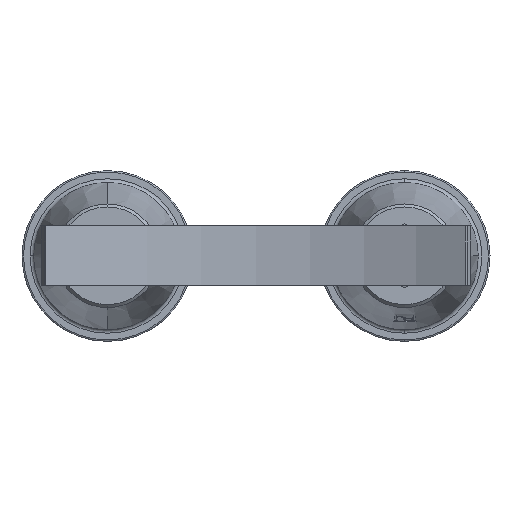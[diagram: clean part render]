
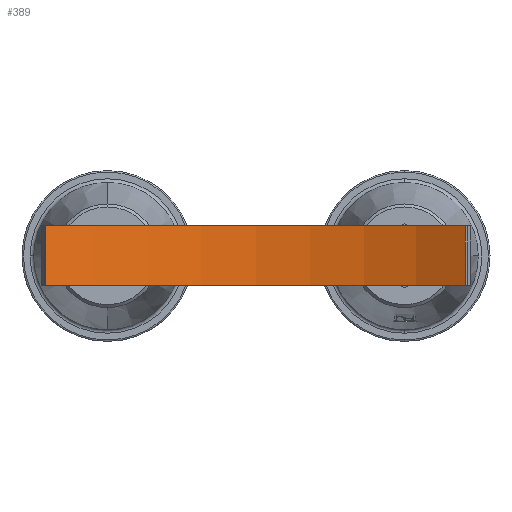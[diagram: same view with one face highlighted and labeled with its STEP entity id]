
A CAD part, top view. The second image highlights one B-rep face of the part: STEP entity #389.
In plain terms, the highlighted cylindrical face has radius 546 mm (diameter 1092 mm), a partial arc.
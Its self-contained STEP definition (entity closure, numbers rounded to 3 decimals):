
#389=ADVANCED_FACE('',(#911),#912,.F.);
#911=FACE_OUTER_BOUND('',#1631,.T.);
#912=CYLINDRICAL_SURFACE('',#1632,546.0);
#1631=EDGE_LOOP('',(#2439,#2440,#2441,#2442));
#1632=AXIS2_PLACEMENT_3D('',#2443,#2444,#2445);
#2439=ORIENTED_EDGE('',*,*,#4150,.T.);
#2440=ORIENTED_EDGE('',*,*,#4140,.F.);
#2441=ORIENTED_EDGE('',*,*,#4151,.T.);
#2442=ORIENTED_EDGE('',*,*,#4147,.T.);
#2443=CARTESIAN_POINT('',(212.222,737.757,570.373));
#2444=DIRECTION('',(0.,1.0,0.));
#2445=DIRECTION('',(-1.0,0.,0.));
#4140=EDGE_CURVE('',#4904,#4899,#4906,.T.);
#4147=EDGE_CURVE('',#4916,#4914,#4917,.T.);
#4150=EDGE_CURVE('',#4914,#4899,#4920,.T.);
#4151=EDGE_CURVE('',#4904,#4916,#4921,.T.);
#4899=VERTEX_POINT('',#6759);
#4904=VERTEX_POINT('',#6766);
#4906=LINE('',#6769,#6770);
#4914=VERTEX_POINT('',#6779);
#4916=VERTEX_POINT('',#6782);
#4917=LINE('',#6783,#6784);
#4920=CIRCLE('',#6788,546.0);
#4921=CIRCLE('',#6789,546.0);
#6759=CARTESIAN_POINT('',(-70.827,817.757,103.469));
#6766=CARTESIAN_POINT('',(-70.827,737.757,103.469));
#6769=CARTESIAN_POINT('',(-70.827,737.757,103.469));
#6770=VECTOR('',#9150,1.0);
#6779=CARTESIAN_POINT('',(494.145,817.757,102.788));
#6782=CARTESIAN_POINT('',(494.145,737.757,102.788));
#6783=CARTESIAN_POINT('',(494.145,737.757,102.788));
#6784=VECTOR('',#9159,1.0);
#6788=AXIS2_PLACEMENT_3D('',#9161,#9162,#9163);
#6789=AXIS2_PLACEMENT_3D('',#9164,#9165,#9166);
#9150=DIRECTION('',(0.,1.0,0.));
#9159=DIRECTION('',(0.,1.0,0.));
#9161=CARTESIAN_POINT('',(212.222,817.757,570.373));
#9162=DIRECTION('',(0.,1.0,0.));
#9163=DIRECTION('',(-1.0,0.,0.));
#9164=CARTESIAN_POINT('',(212.222,737.757,570.373));
#9165=DIRECTION('',(0.,-1.0,0.));
#9166=DIRECTION('',(-1.0,0.,0.));
